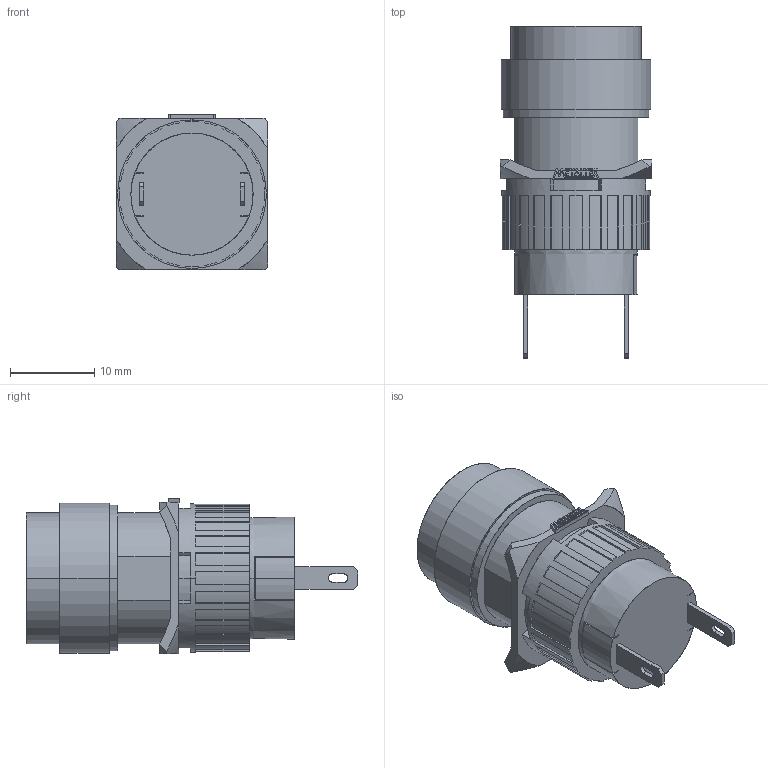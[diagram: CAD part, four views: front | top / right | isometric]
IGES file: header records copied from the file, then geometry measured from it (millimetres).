
Start section: SolidWorks IGES file using analytic representation for surfaces
Global section: file name: D:\X - Arquivos\PROEX\Empresas\P11 - METALTEX\01 - Produtos\IGES\Terceira remessa\Etapa 3\P16-PR.IGS; native system: SolidWorks 2012; preprocessor: SolidWorks 2012; author: Usuario; date: 180215.132729; units: millimetre
Bounding box: 18 x 39.4 x 18.5 mm (x, y, z)
Surface area: 3227.7 mm2 (no closed solid volume)
Topology: 0 solids, 0 shells, 292 faces, 2120 edges, 2120 vertices
Faces by surface type: bspline 227, revolution 65
